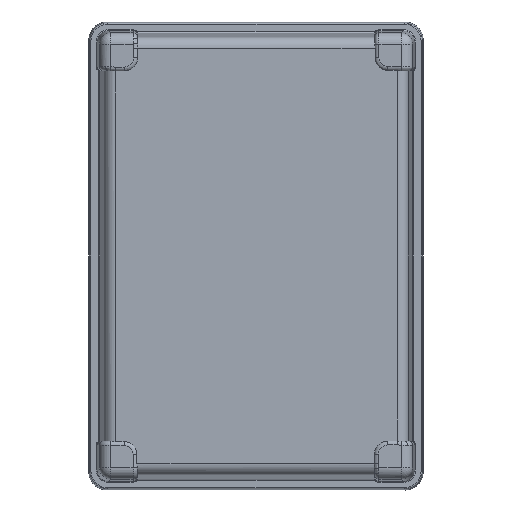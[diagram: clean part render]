
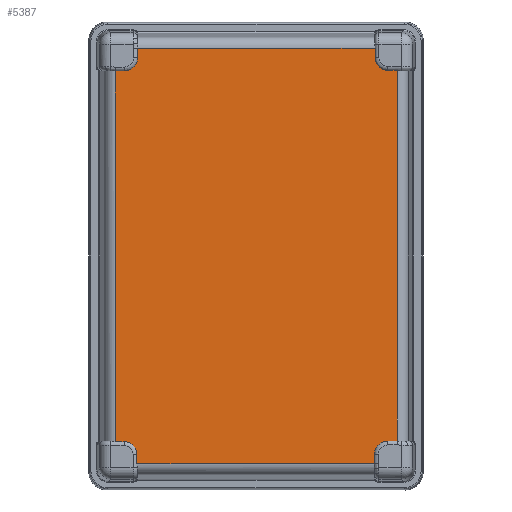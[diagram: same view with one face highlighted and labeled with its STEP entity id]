
A CAD part, front view. The second image highlights one B-rep face of the part: STEP entity #5387.
In plain terms, the highlighted planar face has unit normal (0, -1, 0).
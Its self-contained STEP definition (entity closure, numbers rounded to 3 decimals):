
#1018=DIRECTION('',(-1.,0.,0.));
#1019=VECTOR('',#1018,106.599);
#1020=CARTESIAN_POINT('',(53.433,-68.,93.182));
#1021=LINE('4995',#1020,#1019);
#1134=DIRECTION('',(0.,0.,1.));
#1135=VECTOR('',#1134,166.329);
#1136=CARTESIAN_POINT('',(63.317,-68.,-83.031));
#1137=LINE('4994',#1136,#1135);
#1164=DIRECTION('',(1.,0.,0.));
#1165=VECTOR('',#1164,4.151);
#1166=CARTESIAN_POINT('',(59.165,-68.,-83.031));
#1167=LINE('4795',#1166,#1165);
#1168=CARTESIAN_POINT('',(59.165,-68.,-89.031));
#1169=DIRECTION('',(0.,1.,0.));
#1170=DIRECTION('',(-1.,0.,0.));
#1171=AXIS2_PLACEMENT_3D('',#1168,#1169,#1170);
#1173=DIRECTION('',(0.,0.,1.));
#1174=VECTOR('',#1173,4.151);
#1175=CARTESIAN_POINT('',(53.165,-68.,-93.182));
#1176=LINE('4791',#1175,#1174);
#1177=DIRECTION('',(-1.,0.,0.));
#1178=VECTOR('',#1177,106.599);
#1179=CARTESIAN_POINT('',(53.165,-68.,-93.182));
#1180=LINE('4992',#1179,#1178);
#1181=DIRECTION('',(-1.,0.,0.));
#1182=VECTOR('',#1181,4.017);
#1183=CARTESIAN_POINT('',(-59.165,-68.,83.031));
#1184=LINE('4847',#1183,#1182);
#1185=CARTESIAN_POINT('',(-59.165,-68.,89.031));
#1186=DIRECTION('',(0.,1.,0.));
#1187=DIRECTION('',(1.,0.,0.));
#1188=AXIS2_PLACEMENT_3D('',#1185,#1186,#1187);
#1190=DIRECTION('',(0.,0.,-1.));
#1191=VECTOR('',#1190,4.151);
#1192=CARTESIAN_POINT('',(-53.165,-68.,93.182));
#1193=LINE('4843',#1192,#1191);
#1194=DIRECTION('',(0.,0.,-1.));
#1195=VECTOR('',#1194,4.151);
#1196=CARTESIAN_POINT('',(53.433,-68.,93.182));
#1197=LINE('4528',#1196,#1195);
#1229=CARTESIAN_POINT('',(63.317,-68.,83.298));
#1235=DIRECTION('',(1.,0.,0.));
#1236=VECTOR('',#1235,4.151);
#1237=CARTESIAN_POINT('',(59.165,-68.,83.298));
#1238=LINE('4526',#1237,#1236);
#1244=CARTESIAN_POINT('',(59.165,-68.,89.031));
#1245=DIRECTION('',(0.,-1.,0.));
#1246=DIRECTION('',(-1.,0.,0.));
#1247=AXIS2_PLACEMENT_3D('',#1244,#1245,#1246);
#1488=DIRECTION('',(0.,0.,-1.));
#1489=VECTOR('',#1488,166.329);
#1490=CARTESIAN_POINT('',(-63.182,-68.,83.031));
#1491=LINE('4993',#1490,#1489);
#1520=DIRECTION('',(-1.,0.,0.));
#1521=VECTOR('',#1520,4.017);
#1522=CARTESIAN_POINT('',(-59.165,-68.,-83.298));
#1523=LINE('4391',#1522,#1521);
#1550=CARTESIAN_POINT('',(-59.165,-68.,-89.031));
#1551=DIRECTION('',(0.,-1.,0.));
#1552=DIRECTION('',(1.,0.,0.));
#1553=AXIS2_PLACEMENT_3D('',#1550,#1551,#1552);
#1560=DIRECTION('',(0.,0.,1.));
#1561=VECTOR('',#1560,4.151);
#1562=CARTESIAN_POINT('',(-53.433,-68.,-93.182));
#1563=LINE('4389',#1562,#1561);
#1568=CARTESIAN_POINT('',(-53.433,-68.,-93.182));
#3244=VERTEX_POINT('',#1568);
#3245=CARTESIAN_POINT('',(-53.433,-68.,-89.031));
#3246=VERTEX_POINT('',#3245);
#3247=CARTESIAN_POINT('',(-59.165,-68.,-83.298));
#3248=VERTEX_POINT('',#3247);
#3249=CARTESIAN_POINT('',(-63.182,-68.,-83.298));
#3250=VERTEX_POINT('',#3249);
#3252=VERTEX_POINT('',#1229);
#3254=CARTESIAN_POINT('',(59.165,-68.,83.298));
#3255=VERTEX_POINT('',#3254);
#3256=CARTESIAN_POINT('',(53.433,-68.,89.031));
#3257=VERTEX_POINT('',#3256);
#3258=CARTESIAN_POINT('',(53.433,-68.,93.182));
#3259=VERTEX_POINT('',#3258);
#3285=CARTESIAN_POINT('',(53.165,-68.,-93.182));
#3286=VERTEX_POINT('',#3285);
#3288=CARTESIAN_POINT('',(53.165,-68.,-89.031));
#3289=VERTEX_POINT('',#3288);
#3292=CARTESIAN_POINT('',(59.165,-68.,-83.031));
#3293=VERTEX_POINT('',#3292);
#3296=CARTESIAN_POINT('',(63.317,-68.,-83.031));
#3297=VERTEX_POINT('',#3296);
#3351=CARTESIAN_POINT('',(-53.165,-68.,93.182));
#3352=VERTEX_POINT('',#3351);
#3354=CARTESIAN_POINT('',(-53.165,-68.,89.031));
#3355=VERTEX_POINT('',#3354);
#3358=CARTESIAN_POINT('',(-59.165,-68.,83.031));
#3359=VERTEX_POINT('',#3358);
#3362=CARTESIAN_POINT('',(-63.182,-68.,83.031));
#3363=VERTEX_POINT('',#3362);
#5350=CARTESIAN_POINT('',(0.067,-68.,0.));
#5351=DIRECTION('',(0.,1.,0.));
#5352=DIRECTION('',(1.,0.,0.));
#5353=AXIS2_PLACEMENT_3D('',#5350,#5351,#5352);
#5354=PLANE('2090',#5353);
#5355=ORIENTED_EDGE('4995',*,*,#5218,.F.);
#5357=ORIENTED_EDGE('4528',*,*,#5356,.T.);
#5359=ORIENTED_EDGE('4527',*,*,#5358,.T.);
#5361=ORIENTED_EDGE('4526',*,*,#5360,.T.);
#5362=ORIENTED_EDGE('4994',*,*,#5332,.F.);
#5364=ORIENTED_EDGE('4795',*,*,#5363,.F.);
#5366=ORIENTED_EDGE('4793',*,*,#5365,.F.);
#5368=ORIENTED_EDGE('4791',*,*,#5367,.F.);
#5370=ORIENTED_EDGE('4992',*,*,#5369,.T.);
#5372=ORIENTED_EDGE('4389',*,*,#5371,.T.);
#5374=ORIENTED_EDGE('4390',*,*,#5373,.T.);
#5376=ORIENTED_EDGE('4391',*,*,#5375,.T.);
#5378=ORIENTED_EDGE('4993',*,*,#5377,.F.);
#5380=ORIENTED_EDGE('4847',*,*,#5379,.F.);
#5382=ORIENTED_EDGE('4845',*,*,#5381,.F.);
#5384=ORIENTED_EDGE('4843',*,*,#5383,.F.);
#5385=EDGE_LOOP('2090',(#5355,#5357,#5359,#5361,#5362,#5364,#5366,#5368,#5370,
#5372,#5374,#5376,#5378,#5380,#5382,#5384));
#5386=FACE_OUTER_BOUND('2090',#5385,.F.);
#5387=ADVANCED_FACE('2090',(#5386),#5354,.F.);
#1172=CIRCLE('4793',#1171,6.);
#1189=CIRCLE('4845',#1188,6.);
#1248=CIRCLE('4527',#1247,5.732);
#1554=CIRCLE('4390',#1553,5.732);
#5218=EDGE_CURVE('4995',#3259,#3352,#1021,.T.);
#5332=EDGE_CURVE('4994',#3297,#3252,#1137,.T.);
#5356=EDGE_CURVE('4528',#3259,#3257,#1197,.T.);
#5358=EDGE_CURVE('4527',#3257,#3255,#1248,.T.);
#5360=EDGE_CURVE('4526',#3255,#3252,#1238,.T.);
#5363=EDGE_CURVE('4795',#3293,#3297,#1167,.T.);
#5365=EDGE_CURVE('4793',#3289,#3293,#1172,.T.);
#5367=EDGE_CURVE('4791',#3286,#3289,#1176,.T.);
#5369=EDGE_CURVE('4992',#3286,#3244,#1180,.T.);
#5371=EDGE_CURVE('4389',#3244,#3246,#1563,.T.);
#5373=EDGE_CURVE('4390',#3246,#3248,#1554,.T.);
#5375=EDGE_CURVE('4391',#3248,#3250,#1523,.T.);
#5377=EDGE_CURVE('4993',#3363,#3250,#1491,.T.);
#5379=EDGE_CURVE('4847',#3359,#3363,#1184,.T.);
#5381=EDGE_CURVE('4845',#3355,#3359,#1189,.T.);
#5383=EDGE_CURVE('4843',#3352,#3355,#1193,.T.);
